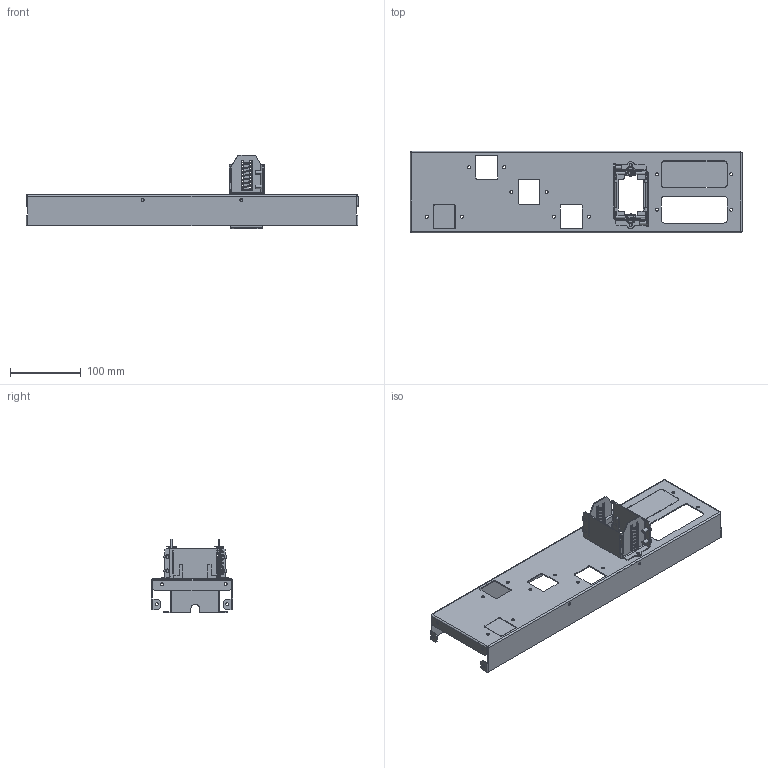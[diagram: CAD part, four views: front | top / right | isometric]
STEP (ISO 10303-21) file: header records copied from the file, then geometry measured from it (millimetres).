
FILE_DESCRIPTION(('CAx-IF Rec.Pracs.---Model Styling and Organization---1.2---2011-12-15','CAx-IF Rec.Pracs.---Geometric and Assembly Validation Properties---4.1---2014-06-16','CAx-IF Rec.Pracs.---PMI Polyline Presentation---2.0---2013-05-24'),'2;1');
FILE_NAME('R5M2W3M1BR21.stp','2021-05-05T12:13:29+03:00',(''),(''),'STEP Interface 4.4 by CT CoreTechnologie','3D_Evolution4.4 by CT CoreTechnologie','');
FILE_SCHEMA(('AUTOMOTIVE_DESIGN { 1 0 10303 214 1 1 1 1 }'));
Length unit declared in the file: millimetre
Products named in the file (8): R5M2W3M1BR21; RB.1567.00.00.0_-00; RB.1765.00.00.0 ÑÁ; RB.1570.00.00.0; RB.1569.00.00.1_-00; RB.1571.00.00.0_In prestressed condition - 40 mm; M5x8-DIN7500C_stright; RB.1506.00.00.0_-00
Assembly tree (13 placements, depth 3):
  R5M2W3M1BR21
    RB.1567.00.00.0_-00
    RB.1765.00.00.0 ÑÁ
      RB.1570.00.00.0  x2
      RB.1569.00.00.1_-00  x2
      RB.1571.00.00.0_In prestressed condition - 40 mm  x2
      M5x8-DIN7500C_stright  x4
    RB.1506.00.00.0_-00
Bounding box: 470 x 115 x 103.8 mm (x, y, z)
Surface area: 240339.5 mm2 (no closed solid volume)
Topology: 0 solids, 20 shells, 694 faces, 1849 edges, 1195 vertices
Faces by surface type: plane 464, cylinder 202, bspline 28
Entity records: 17872 total; most frequent: CARTESIAN_POINT 4346, ORIENTED_EDGE 2718, DIRECTION 2683, EDGE_CURVE 1359, VECTOR 1015, LINE 1015, VERTEX_POINT 877, AXIS2_PLACEMENT_3D 834
